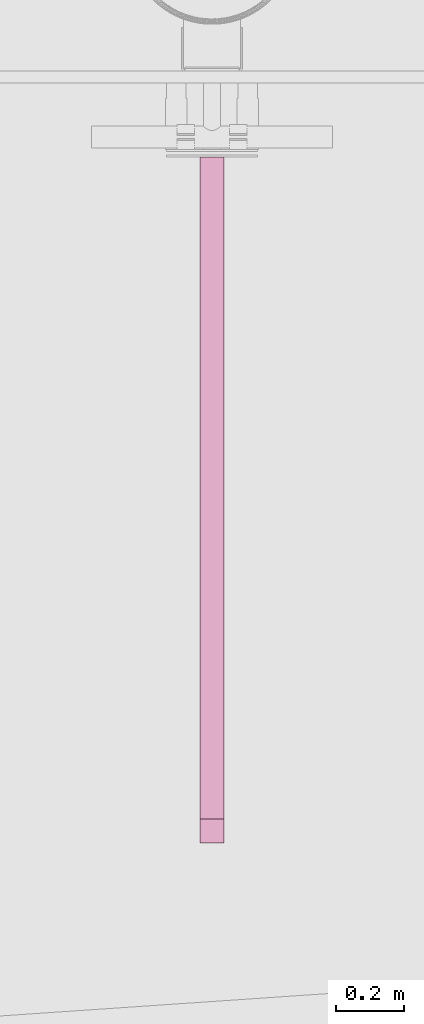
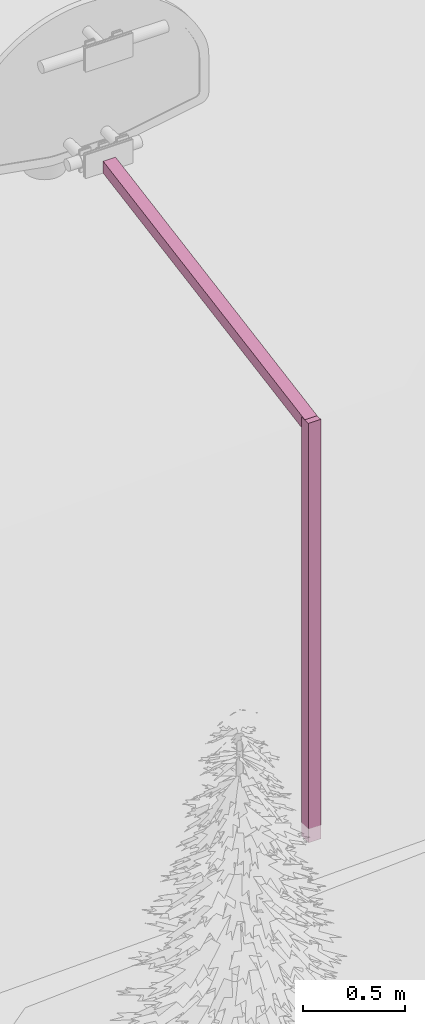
# One storey, part 6 of 1809: 2 furnishings.
"""IFC2X3 building model written with IfcOpenShell, lengths in millimetres."""

import ifcopenshell
import ifcopenshell.guid

model = None  # the IFC model being written
_history = None  # IfcOwnerHistory: only IFC2X3 demands one
_inside = {}  # id of a spatial element -> (the spatial element, [elements in it])
_under = {}  # id of a project, library or spatial element -> (it, [spatial elements below it])
_declared = {}  # id of a project -> (the project, [libraries it declares])
_typed = {}  # id of a type object -> (the type object, [elements of that type])
_made_of = {}  # id of a material, layer set ... -> (it, [elements and type objects made of it])


def new_model(schema):
    """Start an empty IFC model of exactly this schema.

    Asked for "IFC4X3", IfcOpenShell would pick the latest addendum, in which some entities
    have other attributes; the version numbers below select the first issue.
    IFC2X3 requires an IfcOwnerHistory on every rooted entity: one is made here for all.
    """
    global model, _history
    if schema == "IFC4X3":
        model = ifcopenshell.file(schema_version=(4, 3, 0, 0))
    else:
        model = ifcopenshell.file(schema=schema)
    _inside.clear()
    _under.clear()
    _declared.clear()
    _typed.clear()
    _made_of.clear()
    _history = None
    if model.schema == "IFC2X3":
        org = make("IfcOrganization", Name="unknown")
        user = make(
            "IfcPersonAndOrganization",
            ThePerson=make("IfcPerson", FamilyName="unknown"),
            TheOrganization=org,
        )
        app = make(
            "IfcApplication",
            ApplicationDeveloper=org,
            Version="unknown",
            ApplicationFullName="unknown",
            ApplicationIdentifier="unknown",
        )
        _history = make(
            "IfcOwnerHistory",
            OwningUser=user,
            OwningApplication=app,
            ChangeAction="ADDED",
            CreationDate=0,
        )
    return model


def make(cls, **values):
    """One entity of the class cls with the attributes given. An attribute that is None is left unset."""
    return model.create_entity(
        cls, **{name: value for name, value in values.items() if value is not None}
    )


def entity(cls, *values):
    """Any entity or typed value of the class cls, its attributes in the order of the schema. None: left unset."""
    e = model.create_entity(cls)
    for i, value in enumerate(values):
        if value is not None:
            e[i] = value
    return e


def rooted(cls, **values):
    """An entity with a GlobalId (a new one), such as an element, a storey or a relation."""
    return make(cls, GlobalId=ifcopenshell.guid.new(), OwnerHistory=_history, **values)


def si_unit(unit_type, name, prefix=None):
    """IfcSIUnit, for example si_unit("LENGTHUNIT", "METRE", prefix="MILLI")."""
    return make("IfcSIUnit", UnitType=unit_type, Prefix=prefix, Name=name)


def converted_unit(unit_type, name, factor, base, dimensions=None, offset=None):
    """IfcConversionBasedUnit, such as the inch: factor (a typed value) times the base unit."""
    return make(
        "IfcConversionBasedUnit"
        if offset is None
        else "IfcConversionBasedUnitWithOffset",
        ConversionOffset=offset,
        Dimensions=None
        if dimensions is None
        else entity("IfcDimensionalExponents", *dimensions),
        UnitType=unit_type,
        Name=name,
        ConversionFactor=make(
            "IfcMeasureWithUnit", ValueComponent=factor, UnitComponent=base
        ),
    )


def derived_unit(unit_type, elements):
    """IfcDerivedUnit: a product of units, each with its exponent."""
    return make(
        "IfcDerivedUnit",
        Elements=[
            make("IfcDerivedUnitElement", Unit=unit, Exponent=power)
            for unit, power in elements
        ],
        UnitType=unit_type,
    )


def money_unit(currency):
    """IfcMonetaryUnit."""
    return make("IfcMonetaryUnit", Currency=currency)


def assignment(units):
    """IfcUnitAssignment: the units of a project."""
    return None if units is None else make("IfcUnitAssignment", Units=units)


def point(xyz):
    """IfcCartesianPoint."""
    return None if xyz is None else make("IfcCartesianPoint", Coordinates=xyz)


def direction(xyz):
    """IfcDirection."""
    return None if xyz is None else make("IfcDirection", DirectionRatios=xyz)


def frame(location, z_axis=None, x_axis=None):
    """IfcAxis2Placement3D, a coordinate frame: its origin and axes. An axis left out is left unset."""
    return make(
        "IfcAxis2Placement3D",
        Location=point(location),
        Axis=direction(z_axis),
        RefDirection=direction(x_axis),
    )


def frame_2d(location, x_axis=None):
    """IfcAxis2Placement2D, a coordinate frame in the plane: its origin and x axis."""
    return make(
        "IfcAxis2Placement2D", Location=point(location), RefDirection=direction(x_axis)
    )


def origin_with_axes():
    """The frame at (0, 0, 0) with the z axis (0, 0, 1) and the x axis (1, 0, 0) written out."""
    return frame((0.0, 0.0, 0.0), z_axis=(0.0, 0.0, 1.0), x_axis=(1.0, 0.0, 0.0))


def origin_2d_with_axis():
    """The frame at (0, 0) in the plane with the x axis (1, 0) written out."""
    return frame_2d((0.0, 0.0), x_axis=(1.0, 0.0))


def place(relative_to, where):
    """IfcLocalPlacement: puts the frame where relative to a parent placement (None: the world)."""
    return make(
        "IfcLocalPlacement", PlacementRelTo=relative_to, RelativePlacement=where
    )


def context(
    kind, dimensions, precision=None, world=None, true_north=None, identifier=None
):
    """IfcGeometricRepresentationContext, for example the 3D "Model" context."""
    return make(
        "IfcGeometricRepresentationContext",
        ContextIdentifier=identifier,
        ContextType=kind,
        CoordinateSpaceDimension=dimensions,
        Precision=precision,
        WorldCoordinateSystem=world,
        TrueNorth=true_north,
    )


def subcontext(parent, identifier, kind, view, scale=None):
    """IfcGeometricRepresentationSubContext, for example "Body" below "Model"."""
    return make(
        "IfcGeometricRepresentationSubContext",
        ContextIdentifier=identifier,
        ContextType=kind,
        ParentContext=parent,
        TargetScale=scale,
        TargetView=view,
    )


def project(units=None, contexts=None):
    """IfcProject with its units and contexts."""
    return rooted(
        "IfcProject",
        Name="project",
        RepresentationContexts=contexts,
        UnitsInContext=assignment(units),
    )


def spatial(cls, under=None, at=None, **own):
    """A site, building, storey or space (cls), placed at a placement, below another one or the project."""
    s = rooted(cls, ObjectPlacement=at, **own)
    if under is not None:
        _under.setdefault(under.id(), (under, []))[1].append(s)
    return s


def profile(cls, at=None, kind="AREA", **sizes):
    """A parametric profile (cls). Its sizes go by their IFC names, for example OverallWidth=200.0."""
    return make(cls, ProfileType=kind, Position=at, **sizes)


def rectangle(**sizes):
    """IfcRectangleProfileDef."""
    return profile("IfcRectangleProfileDef", **sizes)


def extrude(swept, where, along, depth):
    """IfcExtrudedAreaSolid: the profile swept, set in the frame where, extruded along a direction by depth."""
    return make(
        "IfcExtrudedAreaSolid",
        SweptArea=swept,
        Position=where,
        ExtrudedDirection=direction(along),
        Depth=depth,
    )


def clip(a, b, op="DIFFERENCE"):
    """IfcBooleanClippingResult: the solid a cut by the half space b."""
    return make(
        "IfcBooleanClippingResult", Operator=op, FirstOperand=a, SecondOperand=b
    )


def halfspace(plane, agree):
    """IfcHalfSpaceSolid: all space on one side of the plane z = 0 of the frame plane."""
    return make(
        "IfcHalfSpaceSolid",
        BaseSurface=make("IfcPlane", Position=plane),
        AgreementFlag=agree,
    )


def shape(context_of_items, identifier, shape_type, items):
    """IfcShapeRepresentation: the items that make up one representation, for example the "Body"."""
    return make(
        "IfcShapeRepresentation",
        ContextOfItems=context_of_items,
        RepresentationIdentifier=identifier,
        RepresentationType=shape_type,
        Items=items,
    )


def material(Name=None, Category=None):
    """IfcMaterial."""
    return make("IfcMaterial", Name=Name, Category=Category)


def made_of(thing, what):
    """Note that an element or type object is made of a material, layer set ...; save() writes the relation."""
    if what is not None:
        _made_of.setdefault(what.id(), (what, []))[1].append(thing)
    return thing


def type_object(cls, material=None, **own):
    """A type object (cls), such as IfcWallType, which elements share."""
    return made_of(rooted(cls, **own), material)


def element(
    cls,
    number,
    at=None,
    inside=None,
    cuts=None,
    type_object=None,
    material=None,
    context=None,
    identifier="Body",
    shape_type=None,
    held_by="IfcProductDefinitionShape",
    body=None,
    shapes=None,
    **own,
):
    """One element of the class cls, such as IfcWall. Its Tag is "e" and its number.

    at: its placement. inside: the storey or other place that contains it. cuts: it is an
    opening in that element (IfcRelVoidsElement). A single representation is given by context,
    identifier, shape_type and body (its items); several are given by shapes. held_by: the class
    of the entity that holds the representations. save() writes the other relations.
    """
    e = rooted(cls, Tag="e%d" % number, ObjectPlacement=at, **own)
    if body is not None:
        shapes = [shape(context, identifier, shape_type, body)]
    if shapes is not None:
        e.Representation = make(held_by, Representations=shapes)
    if inside is not None:
        _inside.setdefault(inside.id(), (inside, []))[1].append(e)
    if cuts is not None:
        rooted(
            "IfcRelVoidsElement", RelatingBuildingElement=cuts, RelatedOpeningElement=e
        )
    if type_object is not None:
        _typed.setdefault(type_object.id(), (type_object, []))[1].append(e)
    return made_of(e, material)


def aggregate(whole, parts):
    """IfcRelAggregates: a whole, such as a stair, and the parts it consists of."""
    return rooted("IfcRelAggregates", RelatingObject=whole, RelatedObjects=parts)


def save(model, path):
    """Write the relations noted so far, then the file.

    IfcRelAggregates (storeys below a building ...), IfcRelContainedInSpatialStructure (elements
    in a storey), IfcRelDefinesByType, IfcRelAssociatesMaterial and IfcRelDeclares: one each for
    every whole, place, type object, material and project.
    """
    for whole, parts in _under.values():
        aggregate(whole, parts)
    for where, things in _inside.values():
        rooted(
            "IfcRelContainedInSpatialStructure",
            RelatedElements=things,
            RelatingStructure=where,
        )
    for kind, things in _typed.values():
        rooted("IfcRelDefinesByType", RelatedObjects=things, RelatingType=kind)
    for what, things in _made_of.values():
        rooted("IfcRelAssociatesMaterial", RelatedObjects=things, RelatingMaterial=what)
    for by, libraries in _declared.values():
        rooted("IfcRelDeclares", RelatingContext=by, RelatedDefinitions=libraries)
    model.write(path)


model = new_model("IFC2X3")

# Units and contexts
model_context = context("Model", 3, precision=0.01, world=origin_with_axes(), true_north=direction((0.0, 1.0)))
body_context = subcontext(model_context, "Body", "Model", "MODEL_VIEW")
ifc_project = project(units=[si_unit("LENGTHUNIT", "METRE", prefix="MILLI"), si_unit("AREAUNIT", "SQUARE_METRE"), si_unit("VOLUMEUNIT", "CUBIC_METRE"), converted_unit("PLANEANGLEUNIT", "DEGREE", entity("IfcPlaneAngleMeasure", 0.0174532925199), si_unit("PLANEANGLEUNIT", "RADIAN"), dimensions=[0, 0, 0, 0, 0, 0, 0]), si_unit("SOLIDANGLEUNIT", "STERADIAN"), money_unit("EUR"), converted_unit("TIMEUNIT", "Year", entity("IfcTimeMeasure", 31556926.0), si_unit("TIMEUNIT", "SECOND"), dimensions=[0, 0, 1, 0, 0, 0, 0]), si_unit("MASSUNIT", "GRAM", prefix="KILO"), si_unit("THERMODYNAMICTEMPERATUREUNIT", "DEGREE_CELSIUS"), si_unit("LUMINOUSINTENSITYUNIT", "LUMEN"), si_unit("ENERGYUNIT", "JOULE", prefix="MEGA"), derived_unit("THERMALCONDUCTANCEUNIT", [(si_unit("POWERUNIT", "WATT"), 1), (si_unit("LENGTHUNIT", "METRE"), -1), (si_unit("THERMODYNAMICTEMPERATUREUNIT", "KELVIN"), -1)]), derived_unit("SPECIFICHEATCAPACITYUNIT", [(si_unit("ENERGYUNIT", "JOULE"), 1), (si_unit("MASSUNIT", "GRAM", prefix="KILO"), -1), (si_unit("THERMODYNAMICTEMPERATUREUNIT", "KELVIN"), -1)]), derived_unit("MASSDENSITYUNIT", [(si_unit("MASSUNIT", "GRAM", prefix="KILO"), 1), (si_unit("VOLUMEUNIT", "CUBIC_METRE"), -1)])], contexts=[model_context])

# Site, building, storey
site_placement = place(None, origin_with_axes())
site = spatial("IfcSite", under=ifc_project, at=site_placement, Name="Politse- ja Piirivalveameti ning Päästeameti ühishoone", CompositionType="ELEMENT")
building_placement = place(site_placement, origin_with_axes())
building = spatial("IfcBuilding", under=site, at=building_placement, Name="Politse- ja Piirivalveameti ning Päästeameti ühishoone", CompositionType="ELEMENT")
storey_placement = place(building_placement, origin_with_axes())
storey = spatial("IfcBuildingStorey", under=building, at=storey_placement, Name="Esimene korrus", CompositionType="ELEMENT", Elevation=0.0)

# Furnishings
ifc_material = material(Name="ET-05_Teras")
furniture_type = type_object("IfcFurnitureType", Name="ET-05_Teras 70 x 70", AssemblyPlace="NOTDEFINED")
furnishing_1_placement = place(storey_placement, frame((10780.336287, -46090.4029608, -237.806432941), z_axis=(0.0, 0.0, 1.0), x_axis=(1.0, 0.0, 0.0)))
element("IfcFurnishingElement", 1, at=furnishing_1_placement, inside=storey, type_object=furniture_type, material=ifc_material, Name="Töölaud", context=body_context, shape_type="SweptSolid", body=[
    extrude(rectangle(XDim=70.0, YDim=70.0, at=origin_2d_with_axis()), origin_with_axes(), (0.0, 0.0, 1.0), 2500.0),
])
furnishing_2_placement = place(storey_placement, frame((10780.336287, -46090.4029608, 2262.19356706), z_axis=(0.0, 0.0, 1.0), x_axis=(1.0, 0.0, 0.0)))
element("IfcFurnishingElement", 2, at=furnishing_2_placement, inside=storey, type_object=furniture_type, material=ifc_material, Name="Töölaud", context=body_context, shape_type="Clipping", body=[
    clip(clip(extrude(rectangle(XDim=70.0, YDim=70.0, at=frame_2d((-35.0, 0.0), x_axis=(1.0, 0.0))), frame((0.0, -17.1902925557, -3.03111238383), z_axis=(0.0, 0.984807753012, 0.173648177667), x_axis=(0.0, -0.173648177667, 0.984807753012)), (0.0, 0.0, 1.0), 2034.91096105), halfspace(frame((0.0, 0.0, 0.0), z_axis=(0.0, 1.0, 0.0), x_axis=(0.0, 0.0, 1.0)), True)), halfspace(frame((0.0, 1969.61550602, 0.0), z_axis=(0.0, -1.0, 0.0), x_axis=(0.0, 0.0, -1.0)), True)),
])

save(model, "model.ifc")
